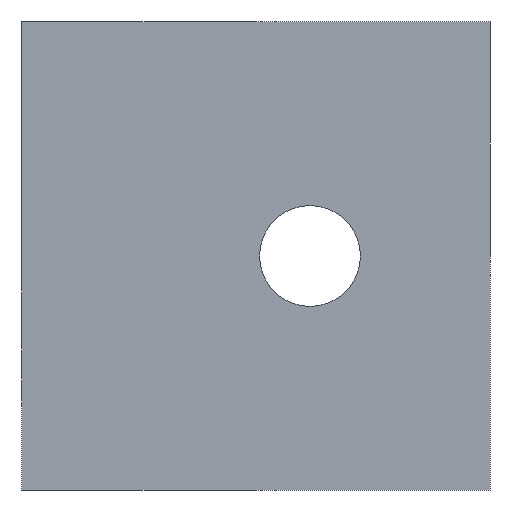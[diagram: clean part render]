
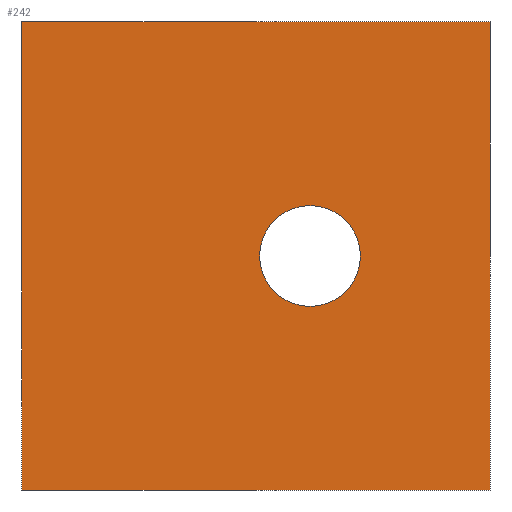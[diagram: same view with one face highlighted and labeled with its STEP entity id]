
A CAD part, front view. The second image highlights one B-rep face of the part: STEP entity #242.
In plain terms, the highlighted planar face has unit normal (0, -1, 0).
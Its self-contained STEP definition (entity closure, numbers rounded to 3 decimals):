
#5 = CARTESIAN_POINT ( 'NONE',  ( 0., 0., 0. ) ) ;
#7 = CARTESIAN_POINT ( 'NONE',  ( 0., 0., 0. ) ) ;
#8 = DIRECTION ( 'NONE',  ( 0., 0., -1. ) ) ;
#11 = AXIS2_PLACEMENT_3D ( 'NONE', #178, #302, #305 ) ;
#28 = DIRECTION ( 'NONE',  ( 0., 0., 1. ) ) ;
#36 = LINE ( 'NONE', #7, #37 ) ;
#37 = VECTOR ( 'NONE', #235, 1000. ) ;
#39 = EDGE_CURVE ( 'NONE', #102, #341, #50, .T. ) ;
#50 = CIRCLE ( 'NONE', #289, 1.4 ) ;
#57 = CARTESIAN_POINT ( 'NONE',  ( 0., 0., 13. ) ) ;
#90 = EDGE_CURVE ( 'NONE', #385, #119, #204, .T. ) ;
#97 = DIRECTION ( 'NONE',  ( 0., 1., 0. ) ) ;
#102 = VERTEX_POINT ( 'NONE', #134 ) ;
#104 = CARTESIAN_POINT ( 'NONE',  ( 13., 0., 13. ) ) ;
#116 = CARTESIAN_POINT ( 'NONE',  ( 13., 0., 13. ) ) ;
#119 = VERTEX_POINT ( 'NONE', #5 ) ;
#134 = CARTESIAN_POINT ( 'NONE',  ( 8., 0., 5.1 ) ) ;
#141 = ORIENTED_EDGE ( 'NONE', *, *, #90, .T. ) ;
#162 = LINE ( 'NONE', #57, #174 ) ;
#174 = VECTOR ( 'NONE', #190, 1000. ) ;
#178 = CARTESIAN_POINT ( 'NONE',  ( 0., 0., 13. ) ) ;
#183 = VERTEX_POINT ( 'NONE', #264 ) ;
#188 = VERTEX_POINT ( 'NONE', #104 ) ;
#189 = EDGE_CURVE ( 'NONE', #119, #183, #36, .T. ) ;
#190 = DIRECTION ( 'NONE',  ( 1., 0., 0. ) ) ;
#194 = CARTESIAN_POINT ( 'NONE',  ( 0., 0., 13. ) ) ;
#204 = LINE ( 'NONE', #205, #386 ) ;
#205 = CARTESIAN_POINT ( 'NONE',  ( 0., 0., 13. ) ) ;
#210 = ORIENTED_EDGE ( 'NONE', *, *, #39, .T. ) ;
#222 = CARTESIAN_POINT ( 'NONE',  ( 8., 0., 7.9 ) ) ;
#224 = CARTESIAN_POINT ( 'NONE',  ( 8., 0., 6.5 ) ) ;
#231 = ORIENTED_EDGE ( 'NONE', *, *, #189, .T. ) ;
#233 = DIRECTION ( 'NONE',  ( 0., 0., 1. ) ) ;
#235 = DIRECTION ( 'NONE',  ( 1., 0., 0. ) ) ;
#242 = ADVANCED_FACE ( 'NONE', ( #337, #397 ), #335, .F. ) ;
#246 = DIRECTION ( 'NONE',  ( 0., 0., -1. ) ) ;
#250 = VECTOR ( 'NONE', #246, 1000. ) ;
#259 = EDGE_CURVE ( 'NONE', #188, #183, #401, .T. ) ;
#264 = CARTESIAN_POINT ( 'NONE',  ( 13., 0., 0. ) ) ;
#289 = AXIS2_PLACEMENT_3D ( 'NONE', #391, #298, #233 ) ;
#298 = DIRECTION ( 'NONE',  ( 0., 1., 0. ) ) ;
#299 = EDGE_CURVE ( 'NONE', #385, #188, #162, .T. ) ;
#302 = DIRECTION ( 'NONE',  ( 0., 1., 0. ) ) ;
#305 = DIRECTION ( 'NONE',  ( 0., 0., 1. ) ) ;
#311 = EDGE_CURVE ( 'NONE', #341, #102, #346, .T. ) ;
#335 = PLANE ( 'NONE',  #11 ) ;
#337 = FACE_BOUND ( 'NONE', #338, .T. ) ;
#338 = EDGE_LOOP ( 'NONE', ( #416, #210 ) ) ;
#341 = VERTEX_POINT ( 'NONE', #222 ) ;
#346 = CIRCLE ( 'NONE', #387, 1.4 ) ;
#348 = EDGE_LOOP ( 'NONE', ( #231, #381, #399, #141 ) ) ;
#381 = ORIENTED_EDGE ( 'NONE', *, *, #259, .F. ) ;
#385 = VERTEX_POINT ( 'NONE', #194 ) ;
#386 = VECTOR ( 'NONE', #8, 1000. ) ;
#387 = AXIS2_PLACEMENT_3D ( 'NONE', #224, #97, #28 ) ;
#391 = CARTESIAN_POINT ( 'NONE',  ( 8., 0., 6.5 ) ) ;
#397 = FACE_OUTER_BOUND ( 'NONE', #348, .T. ) ;
#399 = ORIENTED_EDGE ( 'NONE', *, *, #299, .F. ) ;
#401 = LINE ( 'NONE', #116, #250 ) ;
#416 = ORIENTED_EDGE ( 'NONE', *, *, #311, .T. ) ;
